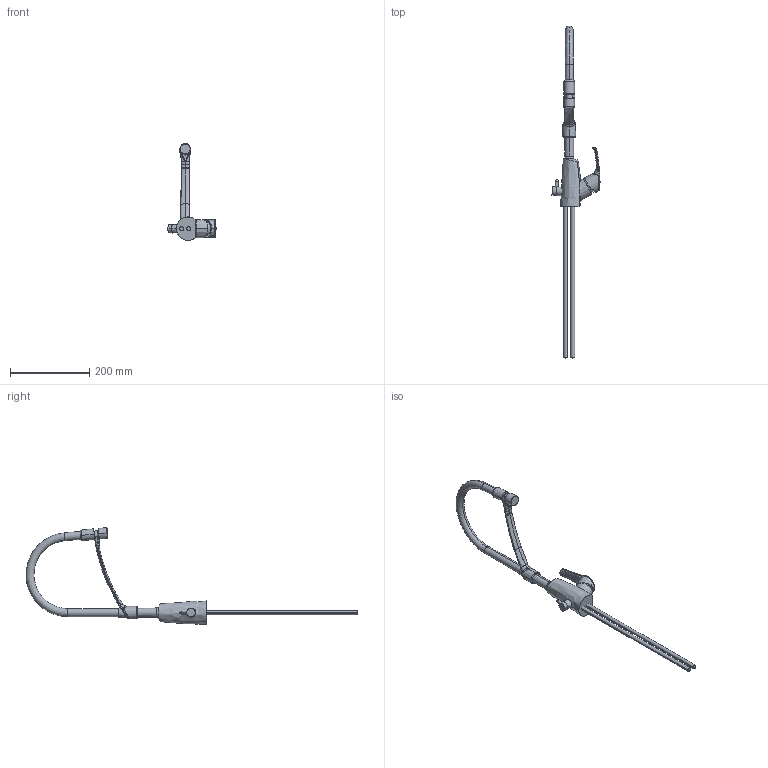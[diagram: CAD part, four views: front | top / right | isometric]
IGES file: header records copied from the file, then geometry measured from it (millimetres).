
Start section:  PTC IGES file: 57158_web.igs
Global section: file name: 57158_web.igs; native system: Creo Parametric by PTC Inc.; preprocessor: 2017380; author: jaj; organization: Unknown; date: 20181005.152612; units: millimetre
Bounding box: 121.61 x 840.05 x 244.58 mm (x, y, z)
Surface area: 154042.7 mm2 (no closed solid volume)
Topology: 0 solids, 0 shells, 273 faces, 1330 edges, 1384 vertices
Faces by surface type: bspline 212, revolution 61
